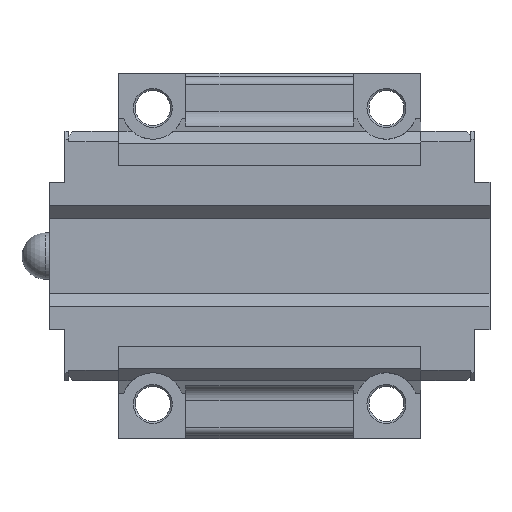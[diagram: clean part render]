
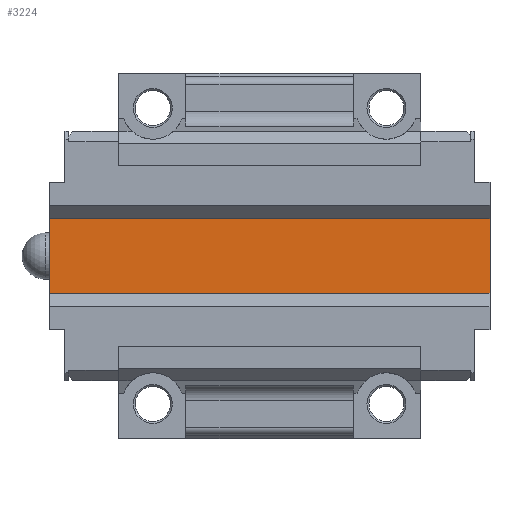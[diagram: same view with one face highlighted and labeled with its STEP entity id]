
A CAD part, front view. The second image highlights one B-rep face of the part: STEP entity #3224.
In plain terms, the highlighted planar face has unit normal (0, -1, 0).
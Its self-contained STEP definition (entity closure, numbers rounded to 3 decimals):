
#956=ORIENTED_EDGE('',*,*,#1418,.F.);
#957=ORIENTED_EDGE('',*,*,#1469,.F.);
#958=ORIENTED_EDGE('',*,*,#1444,.T.);
#959=ORIENTED_EDGE('',*,*,#1470,.T.);
#1418=EDGE_CURVE('',#1750,#1751,#2105,.T.);
#1444=EDGE_CURVE('',#1771,#1770,#2126,.T.);
#1469=EDGE_CURVE('',#1771,#1750,#2149,.T.);
#1470=EDGE_CURVE('',#1770,#1751,#2150,.T.);
#1750=VERTEX_POINT('',#5186);
#1751=VERTEX_POINT('',#5188);
#1770=VERTEX_POINT('',#5237);
#1771=VERTEX_POINT('',#5239);
#2105=LINE('',#5187,#2467);
#2126=LINE('',#5238,#2488);
#2149=LINE('',#5288,#2511);
#2150=LINE('',#5290,#2512);
#2467=VECTOR('',#4226,1000.);
#2488=VECTOR('',#4267,1000.);
#2511=VECTOR('',#4326,1000.);
#2512=VECTOR('',#4329,1000.);
#2689=EDGE_LOOP('',(#956,#957,#958,#959));
#2905=FACE_BOUND('',#2689,.T.);
#3062=PLANE('',#3495);
#3224=ADVANCED_FACE('',(#2905),#3062,.T.);
#3495=AXIS2_PLACEMENT_3D('',#5289,#4327,#4328);
#4226=DIRECTION('',(0.,0.,1.));
#4267=DIRECTION('',(0.,0.,1.));
#4326=DIRECTION('',(-1.,0.,0.));
#4327=DIRECTION('',(0.,-1.,0.));
#4328=DIRECTION('',(0.,0.,-1.));
#4329=DIRECTION('',(-1.,0.,0.));
#5186=CARTESIAN_POINT('',(-28.3,10.3,-5.35));
#5187=CARTESIAN_POINT('',(-28.3,10.3,-5.35));
#5188=CARTESIAN_POINT('',(-28.3,10.3,5.35));
#5237=CARTESIAN_POINT('',(28.3,10.3,5.35));
#5238=CARTESIAN_POINT('',(28.3,10.3,-5.35));
#5239=CARTESIAN_POINT('',(28.3,10.3,-5.35));
#5288=CARTESIAN_POINT('',(28.3,10.3,-5.35));
#5289=CARTESIAN_POINT('',(28.3,10.3,-5.35));
#5290=CARTESIAN_POINT('',(28.3,10.3,5.35));
